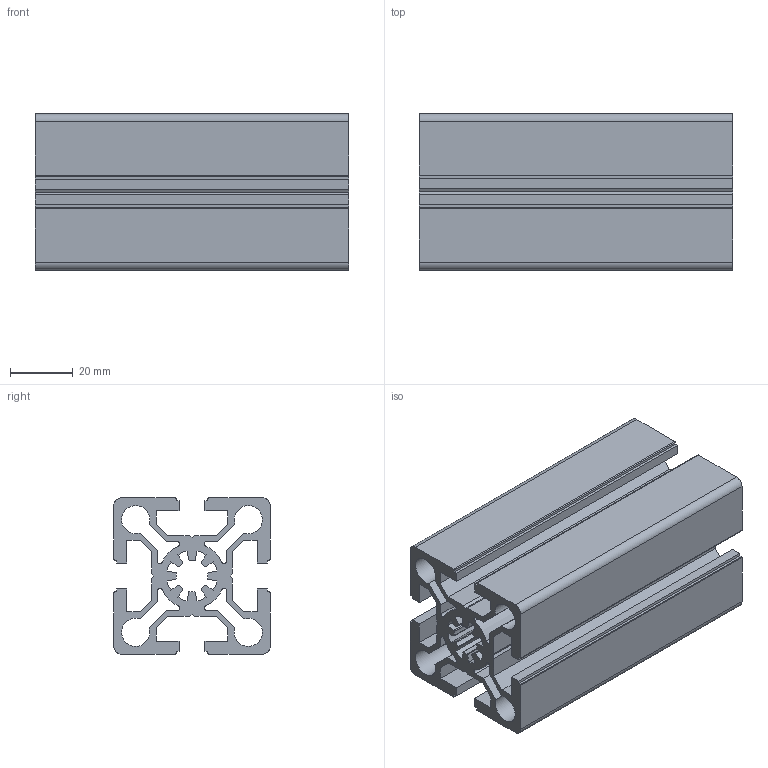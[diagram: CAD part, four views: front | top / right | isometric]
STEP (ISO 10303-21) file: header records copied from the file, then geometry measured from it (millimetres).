
FILE_DESCRIPTION (( 'STEP AP214' ), '1' );
FILE_NAME ('GG8-5050.STEP', '2016-08-03T08:34:55', ( '' ), ( '' ), 'SwSTEP 2.0', 'SolidWorks 2014', '' );
FILE_SCHEMA (( 'AUTOMOTIVE_DESIGN' ));
Length unit declared in the file: millimetre
Products named in the file (1): GG8-5050
Bounding box: 100 x 50 x 50 mm (x, y, z)
Volume: 106210.7 mm3; surface area: 73505.6 mm2
Topology: 1 solids, 1 shells, 167 faces, 495 edges, 330 vertices
Faces by surface type: plane 106, bspline 52, cylinder 9
Entity records: 6909 total; most frequent: CARTESIAN_POINT 2725, ORIENTED_EDGE 990, DIRECTION 641, EDGE_CURVE 495, LINE 373, VECTOR 373, VERTEX_POINT 330, EDGE_LOOP 177
